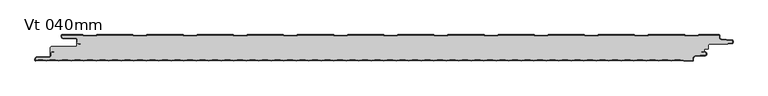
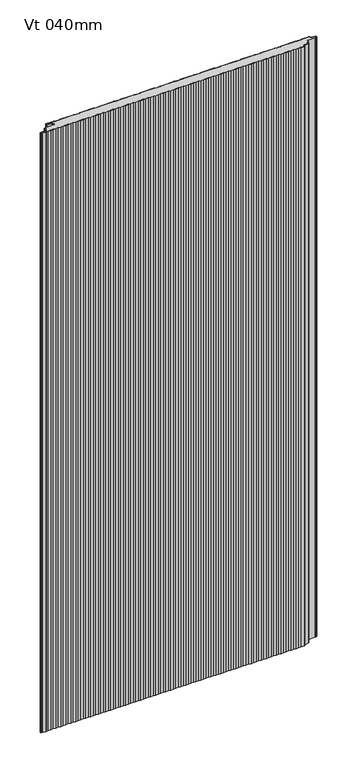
"""IFC4 building model written with IfcOpenShell, lengths in millimetres: plate geometry, KIP-MEX-FW-R19-CP-Vt-MR : Vt 040mm."""

from ifc_helpers import new_model, si_unit, point, frame_2d, origin, origin_with_axes, place, context, project, spatial, polyline, circle_curve, trimmed, segment, composite_curve, outline, extrude, source, transform, mapped, element, save


def vt_040mm_0b9b046a(model_context):
    return source(origin(), model_context, "Body", "SweptSolid", [
        extrude(outline(composite_curve([segment(trimmed(circle_curve(frame_2d((500.9783297, -16.1654441)), 2.0000146), [point((500.9783297, -14.1654295))], [point((498.9783151, -16.1654441))], True, "CARTESIAN"), True, "CONTINUOUS"), segment(polyline([(498.9783151, -16.1654441), (498.9783151, -20.7497098)]), True, "CONTINUOUS"), segment(trimmed(circle_curve(frame_2d((497.9783141, -20.7497098)), 1.0000009), [point((498.9783151, -20.7497098))], [point((497.9783141, -21.7497107))], False, "CARTESIAN"), True, "CONTINUOUS"), segment(polyline([(497.9783141, -21.7497107), (492.7282913, -21.7497107), (492.7282913, -26.1897871), (488.6576517, -25.8336543), (488.5704965, -26.8298491), (494.3590279, -27.336277)]), True, "CONTINUOUS"), segment(trimmed(circle_curve(frame_2d((494.228289, -28.8306389)), 1.50007), [point((494.3590279, -27.336277))], [point((495.4949849, -28.0270895))], False, "CARTESIAN"), True, "CONTINUOUS"), segment(polyline([(495.4949849, -28.0270895), (495.4949849, -30.4094142)]), True, "CONTINUOUS"), segment(trimmed(circle_curve(frame_2d((494.228289, -29.6058649)), 1.50007), [point((495.4949849, -30.4094142))], [point((494.3590282, -31.1002267))], False, "CARTESIAN"), True, "CONTINUOUS"), segment(polyline([(494.3590282, -31.1002267), (478.2363019, -32.5107775)]), True, "CONTINUOUS"), segment(trimmed(circle_curve(frame_2d((478.4977739, -35.4994271)), 3.0000656), [point((478.2363019, -32.5107775))], [point((475.4977083, -35.4994271))], True, "CARTESIAN"), True, "CONTINUOUS"), segment(polyline([(475.4977083, -35.4994271), (475.4977083, -38.9993686), (461.62819, -38.9993686), (452.1300477, -37.9942848), (442.6032335, -38.9944753), (433.1527113, -37.9949284), (423.6258971, -38.9951188), (414.1753749, -37.9955719), (404.6485607, -38.9957624), (395.1980385, -37.9962154), (385.6712243, -38.9964059), (376.2207021, -37.996859), (366.6938879, -38.9970495), (357.2433657, -37.9975025), (347.7165515, -38.997693), (338.2660292, -37.9981461), (328.7392151, -38.9983365), (319.2886928, -37.9987896), (309.7618786, -38.9989801), (300.3113564, -37.9994332), (290.7845422, -38.9996236), (281.33402, -38.0000767), (271.8072058, -39.0002672), (262.3566836, -38.0007203), (252.8298694, -39.0009107), (243.3793472, -38.0013638), (233.852533, -39.0015543), (224.4020108, -38.0020073), (214.8751966, -39.0021978), (205.4246744, -38.0026509), (195.8978602, -39.0028413), (186.447338, -38.0032944), (176.9205238, -39.0034849), (167.4700016, -38.003938), (157.9431874, -39.0041284), (148.4926652, -38.0045815), (138.965851, -39.004772), (129.5153287, -38.0052251), (119.9885145, -39.0054155), (110.5379923, -38.0058686), (101.0111781, -39.0060591), (91.5606559, -38.0065121), (82.0338417, -39.0067026), (72.5833195, -38.0071557), (63.0565053, -39.0073462), (53.6059831, -38.0077992), (44.0791689, -39.0079897), (34.6286467, -38.0084428), (25.1018325, -39.0086332), (15.6513103, -38.0090863), (6.1244961, -39.0092768), (-3.3260261, -38.0097299), (-12.8528403, -39.0099203), (-22.3033625, -38.0103734), (-31.8301767, -39.0105639), (-41.2806989, -38.0110169), (-50.8075131, -39.0112074), (-60.2580354, -38.0116605), (-69.7848495, -39.011851), (-79.2353718, -38.012304), (-88.762186, -39.0124945), (-98.2127082, -38.0129476), (-107.7395224, -39.013138), (-117.1900446, -38.0135911), (-126.7168588, -39.0137816), (-136.167381, -38.0142347), (-145.6941952, -39.0144251), (-155.1447174, -38.0148782), (-164.6715316, -39.0150687), (-174.1220538, -38.0155218), (-183.648868, -39.0157122), (-193.0993902, -38.0161653), (-202.6262044, -39.0163558), (-212.0767266, -38.0168088), (-221.6035408, -39.0169993), (-231.054063, -38.0174524), (-240.5808772, -39.0176429), (-250.0313995, -38.0180959), (-259.5582136, -39.0182864), (-269.0087359, -38.0187395), (-278.5355501, -39.0189299), (-287.9860723, -38.019383), (-297.5128865, -39.0195735), (-306.9634087, -38.0200266), (-316.4902229, -39.020217), (-325.9407451, -38.0206701), (-335.4675593, -39.0208606), (-344.9180815, -38.0213136), (-354.4448957, -39.0215041), (-363.8954179, -38.0219572), (-373.4222321, -39.0221477), (-382.8727543, -38.0226007), (-392.3995685, -39.0227912), (-401.8500907, -38.0232443), (-411.3769049, -39.0234347), (-420.8274271, -38.0238878), (-430.3542413, -39.0240783), (-439.8047635, -38.0245314), (-449.3315777, -39.0247218), (-458.7821, -38.0251749), (-468.3089142, -39.0253654), (-477.7594364, -38.0258185), (-487.2862506, -39.0260089), (-496.7367728, -38.026462), (-506.263587, -39.0266525), (-515.7141092, -38.0271055), (-522.5021472, -38.9994115), (-522.5021472, -37.4995355)]), True, "CONTINUOUS"), segment(trimmed(circle_curve(frame_2d((-520.0023509, -37.4995355)), 2.4997964), [point((-522.5021472, -37.4995355))], [point((-520.0023509, -34.9997391))], False, "CARTESIAN"), True, "CONTINUOUS"), segment(polyline([(-520.0023509, -34.9997391), (-502.0013909, -34.9997391)]), True, "CONTINUOUS"), segment(trimmed(circle_curve(frame_2d((-502.0013909, -31.9990175)), 3.0007216), [point((-502.0013909, -34.9997391))], [point((-499.0006702, -32.0012622))], True, "CARTESIAN"), True, "CONTINUOUS"), segment(polyline([(-499.0006702, -32.0012622), (-499.0006702, -28.4048939)]), True, "CONTINUOUS"), segment(trimmed(circle_curve(frame_2d((-497.5003, -28.4048939)), 1.5003702), [point((-499.0006702, -28.4048939))], [point((-497.7599015, -26.9271532))], False, "CARTESIAN"), True, "CONTINUOUS"), segment(polyline([(-497.7599015, -26.9271532), (-494.2177275, -26.3048833), (-494.3907152, -25.3201776), (-497.9325337, -25.942385)]), True, "CONTINUOUS"), segment(trimmed(circle_curve(frame_2d((-497.4999652, -28.4047134)), 2.5000354), [point((-497.9325337, -25.942385))], [point((-500.0000002, -28.4032291))], True, "CARTESIAN"), True, "CONTINUOUS"), segment(polyline([(-500.0000002, -28.4032291), (-500.0000002, -20.2497149)]), True, "CONTINUOUS"), segment(trimmed(circle_curve(frame_2d((-497.9999885, -20.2497149)), 2.0000117), [point((-500.0000002, -20.2497149))], [point((-497.9999885, -18.2497033))], False, "CARTESIAN"), True, "CONTINUOUS"), segment(polyline([(-497.9999885, -18.2497033), (-461.9999862, -18.2497033)]), True, "CONTINUOUS"), segment(trimmed(circle_curve(frame_2d((-461.9999862, -16.2497112)), 1.9999921), [point((-461.9999862, -18.2497033))], [point((-459.9999941, -16.2497112))], True, "CARTESIAN"), True, "CONTINUOUS"), segment(polyline([(-459.9999941, -16.2497112), (-459.9999941, -11.5958548)]), True, "CONTINUOUS"), segment(trimmed(circle_curve(frame_2d((-457.4999722, -11.5943842)), 2.5000223), [point((-459.9999941, -11.5958548))], [point((-457.9325372, -14.0567))], True, "CARTESIAN"), True, "CONTINUOUS"), segment(polyline([(-457.9325372, -14.0567), (-454.3907164, -14.6789059), (-454.2177293, -13.6942009), (-457.7599069, -13.0719322)]), True, "CONTINUOUS"), segment(trimmed(circle_curve(frame_2d((-457.5003083, -11.5942031)), 1.5003583), [point((-457.7599069, -13.0719322))], [point((-459.0006666, -11.5942031))], False, "CARTESIAN"), True, "CONTINUOUS"), segment(polyline([(-459.0006666, -11.5942031), (-459.0006666, -7.9979742)]), True, "CONTINUOUS"), segment(trimmed(circle_curve(frame_2d((-462.0013897, -8.000067)), 3.0007238), [point((-459.0006666, -7.9979742))], [point((-462.0013897, -4.9993432))], True, "CARTESIAN"), True, "CONTINUOUS"), segment(polyline([(-462.0013897, -4.9993432), (-480.0023525, -4.9993432)]), True, "CONTINUOUS"), segment(trimmed(circle_curve(frame_2d((-480.0023525, -2.4995477)), 2.4997955), [point((-480.0023525, -4.9993432))], [point((-482.502148, -2.4995477))], False, "CARTESIAN"), True, "CONTINUOUS"), segment(polyline([(-482.502148, -2.4995477), (-482.502148, -0.9997153), (-451.198772, -0.9997153), (-450.1136256, -2.2014096), (-430.1816473, -2.2014096), (-429.0936975, -1.0003366), (-375.0486907, -1.0003366), (-373.9621665, -2.1998358), (-354.0301881, -2.1998358), (-352.9436639, -1.0003366), (-298.895806, -1.0003366), (-297.8092817, -2.1998358), (-277.8773034, -2.1998358), (-276.7907791, -1.0003366), (-222.7429212, -1.0003366), (-221.6563969, -2.1998358), (-201.7244186, -2.1998358), (-200.6378943, -1.0003366), (-146.5900365, -1.0003366), (-145.5035122, -2.1998358), (-125.5715339, -2.1998358), (-124.4864353, -1.0003366), (-70.4371517, -1.0003366), (-69.3506274, -2.1998358), (-49.4186491, -2.1998358), (-48.3335506, -1.0003366), (5.7157331, -1.0003366), (6.8022573, -2.1998358), (26.7342357, -2.1998358), (27.8207599, -1.0003366), (81.8686178, -1.0003366), (82.9551421, -2.1998358), (102.8871204, -2.1998358), (103.9722189, -1.0003366), (158.0215026, -1.0003366), (159.1080269, -2.1998358), (179.0400052, -2.1998358), (180.1265295, -1.0003366), (234.1743873, -1.0003366), (235.2609116, -2.1998358), (255.1928899, -2.1998358), (256.2779885, -1.0003366), (310.3272721, -1.0003366), (311.4137964, -2.1998358), (331.3457747, -2.1998358), (332.432299, -1.0003366), (386.4801569, -1.0003366), (387.5666811, -2.1998358), (407.4986595, -2.1998358), (408.5851837, -1.0003366), (462.6330416, -1.0003366), (463.7195659, -2.1998358), (483.6515442, -2.1998358), (484.7366427, -0.9997052), (515.4976697, -0.9997052), (515.4976697, -4.4996623)]), True, "CONTINUOUS"), segment(trimmed(circle_curve(frame_2d((518.4977212, -4.4996623)), 3.0000515), [point((515.4976697, -4.4996623))], [point((518.236249, -7.4882976))], True, "CARTESIAN"), True, "CONTINUOUS"), segment(polyline([(518.236249, -7.4882976), (534.3589903, -8.8988572)]), True, "CONTINUOUS"), segment(trimmed(circle_curve(frame_2d((534.2282504, -10.393219)), 1.50007), [point((534.3589903, -8.8988572))], [point((535.60777, -9.8040368))], False, "CARTESIAN"), True, "CONTINUOUS"), segment(polyline([(535.60777, -9.8040368), (535.60777, -11.7576271)]), True, "CONTINUOUS"), segment(trimmed(circle_curve(frame_2d((534.2282504, -11.168445)), 1.50007), [point((535.60777, -11.7576271))], [point((534.3589893, -12.6628068))], False, "CARTESIAN"), True, "CONTINUOUS"), segment(polyline([(534.3589893, -12.6628068), (528.5704579, -13.1692348), (528.6576132, -14.1654295), (500.9783297, -14.1654295)]), True, "CONTINUOUS")], self_intersect=False)), origin_with_axes(), (0.0, 0.0, 1.0), 2400.0),
        extrude(outline(composite_curve([segment(trimmed(circle_curve(frame_2d((534.2282504, -10.3913085)), 2.50007), [point((534.4461462, -7.9007521))], [point((536.6327024, -9.7065014))], False, "CARTESIAN"), True, "CONTINUOUS"), segment(polyline([(536.6327024, -9.7065014), (536.6327024, -11.8513417)]), True, "CONTINUOUS"), segment(trimmed(circle_curve(frame_2d((534.2282504, -11.1665345)), 2.50007), [point((536.6327024, -11.8513417))], [point((534.4461446, -13.6570911))], False, "CARTESIAN"), True, "CONTINUOUS"), segment(polyline([(534.4461446, -13.6570911), (528.6576132, -14.1635191), (528.5704579, -13.1673244), (534.3589893, -12.6608964)]), True, "CONTINUOUS"), segment(trimmed(circle_curve(frame_2d((534.2282504, -11.1665345)), 1.50007), [point((534.3589893, -12.6608964))], [point((535.60777, -11.7557167))], True, "CARTESIAN"), True, "CONTINUOUS"), segment(polyline([(535.60777, -11.7557167), (535.60777, -9.8021264)]), True, "CONTINUOUS"), segment(trimmed(circle_curve(frame_2d((534.2282504, -10.3913085)), 1.50007), [point((535.60777, -9.8021264))], [point((534.3589903, -8.8969468))], True, "CARTESIAN"), True, "CONTINUOUS"), segment(polyline([(534.3589903, -8.8969468), (518.236249, -7.4863872)]), True, "CONTINUOUS"), segment(trimmed(circle_curve(frame_2d((518.4977212, -4.4977518)), 3.0000515), [point((518.236249, -7.4863872))], [point((515.4976697, -4.4977518))], False, "CARTESIAN"), True, "CONTINUOUS"), segment(polyline([(515.4976697, -4.4977518), (515.4976697, -0.9977948), (484.7366427, -0.9977948), (483.6515442, -2.1979254), (463.7195659, -2.1979254), (462.6330416, -0.9984262), (408.5851837, -0.9984262), (407.4986595, -2.1979254), (387.5666811, -2.1979254), (386.4801569, -0.9984262), (332.432299, -0.9984262), (331.3457747, -2.1979254), (311.4137964, -2.1979254), (310.3272721, -0.9984262), (256.2779885, -0.9984262), (255.1928899, -2.1979254), (235.2609116, -2.1979254), (234.1743873, -0.9984262), (180.1265295, -0.9984262), (179.0400052, -2.1979254), (159.1080269, -2.1979254), (158.0215026, -0.9984262), (103.9722189, -0.9984262), (102.8871204, -2.1979254), (82.9551421, -2.1979254), (81.8686178, -0.9984262), (27.8207599, -0.9984262), (26.7342357, -2.1979254), (6.8022573, -2.1979254), (5.7157331, -0.9984262), (-48.3335506, -0.9984262), (-49.4186491, -2.1979254), (-69.3506274, -2.1979254), (-70.4371517, -0.9984262), (-124.4864353, -0.9984262), (-125.5715339, -2.1979254), (-145.5035122, -2.1979254), (-146.5900365, -0.9984262), (-200.6378943, -0.9984262), (-201.7244186, -2.1979254), (-221.6563969, -2.1979254), (-222.7429212, -0.9984262), (-276.7907791, -0.9984262), (-277.8773034, -2.1979254), (-297.8092817, -2.1979254), (-298.895806, -0.9984262), (-352.9436639, -0.9984262), (-354.0301881, -2.1979254), (-373.9621665, -2.1979254), (-375.0486907, -0.9984262), (-429.0936975, -0.9984262), (-430.1816473, -2.1994992), (-450.1136256, -2.1994992), (-451.198772, -0.9978049), (-482.5021495, -0.9978049), (-482.5021495, -2.4976391)]), True, "CONTINUOUS"), segment(trimmed(circle_curve(frame_2d((-480.0023517, -2.4976391)), 2.4997977), [point((-482.5021495, -2.4976391))], [point((-480.0023517, -4.9974368))], True, "CARTESIAN"), True, "CONTINUOUS"), segment(polyline([(-480.0023517, -4.9974368), (-462.0013975, -4.9974368)]), True, "CONTINUOUS"), segment(trimmed(circle_curve(frame_2d((-462.0013975, -7.9981527)), 3.0007159), [point((-462.0013975, -4.9974368))], [point((-459.0006824, -7.9960599))], False, "CARTESIAN"), True, "CONTINUOUS"), segment(polyline([(-459.0006824, -7.9960599), (-459.0006824, -11.5923191)]), True, "CONTINUOUS"), segment(trimmed(circle_curve(frame_2d((-457.5002995, -11.5923191)), 1.5003829), [point((-459.0006824, -11.5923191))], [point((-457.7598389, -13.0700837))], True, "CARTESIAN"), True, "CONTINUOUS"), segment(polyline([(-457.7598389, -13.0700837), (-454.2177322, -13.692183), (-454.3907145, -14.6771087), (-457.9328225, -14.0550092)]), True, "CONTINUOUS"), segment(trimmed(circle_curve(frame_2d((-457.5003007, -11.5923184)), 2.5003842), [point((-457.9328225, -14.0550092))], [point((-460.0006844, -11.5937892))], False, "CARTESIAN"), True, "CONTINUOUS"), segment(polyline([(-460.0006844, -11.5937892), (-460.0006844, -7.9966543)]), True, "CONTINUOUS"), segment(trimmed(circle_curve(frame_2d((-462.0013951, -7.9981583)), 2.0007112), [point((-460.0006844, -7.9966543))], [point((-462.0013951, -5.9974471))], True, "CARTESIAN"), True, "CONTINUOUS"), segment(polyline([(-462.0013951, -5.9974471), (-480.0023719, -5.9974471)]), True, "CONTINUOUS"), segment(trimmed(circle_curve(frame_2d((-480.0023719, -2.4976291)), 3.499818), [point((-480.0023719, -5.9974471))], [point((-483.5021899, -2.4976291))], False, "CARTESIAN"), True, "CONTINUOUS"), segment(polyline([(-483.5021899, -2.4976291), (-483.5021899, -1.4977832)]), True, "CONTINUOUS"), segment(trimmed(circle_curve(frame_2d((-482.0022451, -1.4977832)), 1.4999449), [point((-483.5021899, -1.4977832))], [point((-481.8959821, -0.0016072))], False, "CARTESIAN"), True, "CONTINUOUS"), segment(polyline([(-481.8959821, -0.0016072), (-450.75528, -0.0016072), (-449.6701813, -1.1994992), (-430.6250917, -1.1994992), (-429.5385674, 0.0), (-374.6038208, 0.0), (-373.5187221, -1.1979254), (-354.4736325, -1.1979254), (-353.3871082, 0.0), (-298.450936, 0.0), (-297.3658373, -1.1979254), (-278.3207477, -1.1979254), (-277.2342235, 0.0), (-222.2980513, 0.0), (-221.2129526, -1.1979254), (-202.167863, -1.1979254), (-201.0813387, 0.0), (-146.1451665, 0.0), (-145.0600678, -1.1979254), (-126.0149782, -1.1979254), (-124.9284539, 0.0), (-69.9922817, 0.0), (-68.907183, -1.1979254), (-49.8620935, -1.1979254), (-48.7755692, 0.0), (6.160603, 0.0), (7.2457017, -1.1979254), (26.2907913, -1.1979254), (27.3773156, 0.0), (82.3134878, 0.0), (83.3985865, -1.1979254), (102.4436761, -1.1979254), (103.5302003, 0.0), (158.4663725, 0.0), (159.5514712, -1.1979254), (178.5965608, -1.1979254), (179.6830851, 0.0), (234.6192573, 0.0), (235.704356, -1.1979254), (254.7494456, -1.1979254), (255.8359699, 0.0), (310.7721421, 0.0), (311.8572408, -1.1979254), (330.9023303, -1.1979254), (331.9888546, 0.0), (386.9250268, 0.0), (388.0101255, -1.1979254), (407.0552151, -1.1979254), (408.1417394, 0.0), (463.0779116, 0.0), (464.1630103, -1.1979254), (483.2080999, -1.1979254), (484.2946241, 0.0021951), (514.9977637, 0.0021951)]), True, "CONTINUOUS"), segment(trimmed(circle_curve(frame_2d((514.9977637, -1.4977109)), 1.499906), [point((514.9977637, 0.0021951))], [point((516.4976697, -1.4977109))], False, "CARTESIAN"), True, "CONTINUOUS"), segment(polyline([(516.4976697, -1.4977109), (516.4976697, -4.4977518)]), True, "CONTINUOUS"), segment(trimmed(circle_curve(frame_2d((518.4977212, -4.4977518)), 2.0000515), [point((516.4976697, -4.4977518))], [point((518.3234049, -6.4901925))], True, "CARTESIAN"), True, "CONTINUOUS"), segment(polyline([(518.3234049, -6.4901925), (534.4461462, -7.9007521)]), True, "CONTINUOUS")], self_intersect=False)), origin_with_axes(), (0.0, 0.0, 1.0), 2400.0),
        extrude(outline(composite_curve([segment(trimmed(circle_curve(frame_2d((494.228289, -28.8312703)), 2.50007), [point((494.4461832, -26.3407137))], [point((496.6282243, -28.1307989))], False, "CARTESIAN"), True, "CONTINUOUS"), segment(polyline([(496.6282243, -28.1307989), (496.6282243, -30.3069678)]), True, "CONTINUOUS"), segment(trimmed(circle_curve(frame_2d((494.228289, -29.6064963)), 2.50007), [point((496.6282243, -30.3069678))], [point((494.4461837, -32.0970529))], False, "CARTESIAN"), True, "CONTINUOUS"), segment(polyline([(494.4461837, -32.0970529), (478.3234573, -33.5076037)]), True, "CONTINUOUS"), segment(trimmed(circle_curve(frame_2d((478.4977739, -35.5000585)), 2.0000656), [point((478.3234573, -33.5076037))], [point((476.4977083, -35.5000585))], True, "CARTESIAN"), True, "CONTINUOUS"), segment(polyline([(476.4977083, -35.5000585), (476.4977083, -38.500094)]), True, "CONTINUOUS"), segment(trimmed(circle_curve(frame_2d((474.9978023, -38.500094)), 1.499906), [point((476.4977083, -38.500094))], [point((474.9978023, -40.0))], False, "CARTESIAN"), True, "CONTINUOUS"), segment(polyline([(474.9978023, -40.0), (461.5801824, -40.0), (452.1296601, -39.000453), (442.6028459, -40.0006434), (433.1523237, -39.0010965), (423.6255095, -40.001287), (414.1749873, -39.00174), (404.6481731, -40.0019305), (395.1976509, -39.0023836), (385.6708367, -40.0025741), (376.2203145, -39.0030271), (366.6935003, -40.0032176), (357.2429781, -39.0036707), (347.7161639, -40.0038611), (338.2656417, -39.0043142), (328.7388275, -40.0045047), (319.2883053, -39.0049578), (309.7614911, -40.0051482), (300.3109689, -39.0056013), (290.7841547, -40.0057918), (281.3336324, -39.0062449), (271.8068183, -40.0064353), (262.356296, -39.0068884), (252.8294818, -40.0070789), (243.3789596, -39.0075319), (233.8521454, -40.0077224), (224.4016232, -39.0081755), (214.874809, -40.008366), (205.4242868, -39.008819), (195.8974726, -40.0090095), (186.4469504, -39.0094626), (176.9201362, -40.009653), (167.469614, -39.0101061), (157.9427998, -40.0102966), (148.4922776, -39.0107497), (138.9654634, -40.0109401), (129.5149412, -39.0113932), (119.988127, -40.0115837), (110.5376048, -39.0120367), (101.0107906, -40.0122272), (91.5602683, -39.0126803), (82.0334542, -40.0128708), (72.5829319, -39.0133238), (63.0561177, -40.0135143), (53.6055955, -39.0139674), (44.0787813, -40.0141578), (34.6282591, -39.0146109), (25.1014449, -40.0148014), (15.6509227, -39.0152545), (6.1241085, -40.0154449), (-3.3264137, -39.015898), (-12.8532279, -40.0160885), (-22.3037501, -39.0165416), (-31.8305643, -40.016732), (-41.2810865, -39.0171851), (-50.8079007, -40.0173756), (-60.2584229, -39.0178286), (-69.7852371, -40.0180191), (-79.2357593, -39.0184722), (-88.7625735, -40.0186627), (-98.2130957, -39.0191157), (-107.7399099, -40.0193062), (-117.1904322, -39.0197593), (-126.7172464, -40.0199497), (-136.1677686, -39.0204028), (-145.6945828, -40.0205933), (-155.145105, -39.0210464), (-164.6719192, -40.0212368), (-174.1224414, -39.0216899), (-183.6492556, -40.0218804), (-193.0997778, -39.0223334), (-202.626592, -40.0225239), (-212.0771142, -39.022977), (-221.6039284, -40.0231675), (-231.0544506, -39.0236205), (-240.5812648, -40.023811), (-250.031787, -39.0242641), (-259.5586012, -40.0244545), (-269.0091234, -39.0249076), (-278.5359376, -40.0250981), (-287.9864598, -39.0255512), (-297.513274, -40.0257416), (-306.9637963, -39.0261947), (-316.4906104, -40.0263852), (-325.9411327, -39.0268383), (-335.4679469, -40.0270287), (-344.9184691, -39.0274818), (-354.4452833, -40.0276723), (-363.8958055, -39.0281253), (-373.4226197, -40.0283158), (-382.8731419, -39.0287689), (-392.3999561, -40.0289593), (-401.8504783, -39.0294124), (-411.3772925, -40.0296029), (-420.8278147, -39.030056), (-430.3546289, -40.0302464), (-439.8051511, -39.0306995), (-449.3319653, -40.03089), (-458.7824875, -39.0313431), (-468.3093017, -40.0315335), (-477.7598239, -39.0319866), (-487.2866381, -40.0321771), (-496.7371604, -39.0326301), (-506.2639745, -40.0328206), (-515.7144968, -39.0332737), (-522.0022446, -39.9999669)]), True, "CONTINUOUS"), segment(trimmed(circle_curve(frame_2d((-522.0022446, -38.5000215)), 1.4999455), [point((-522.0022446, -39.9999669))], [point((-523.50219, -38.5000215))], False, "CARTESIAN"), True, "CONTINUOUS"), segment(polyline([(-523.50219, -38.5000215), (-523.50219, -37.5001754)]), True, "CONTINUOUS"), segment(trimmed(circle_curve(frame_2d((-520.0023708, -37.5001754)), 3.4998192), [point((-523.50219, -37.5001754))], [point((-520.0023708, -34.0003562))], False, "CARTESIAN"), True, "CONTINUOUS"), segment(polyline([(-520.0023708, -34.0003562), (-502.0013961, -34.0003562)]), True, "CONTINUOUS"), segment(trimmed(circle_curve(frame_2d((-502.0013961, -31.9996477)), 2.0007086), [point((-502.0013961, -34.0003562))], [point((-500.0006881, -32.0011442))], True, "CARTESIAN"), True, "CONTINUOUS"), segment(polyline([(-500.0006881, -32.0011442), (-500.0006881, -28.4040152)]), True, "CONTINUOUS"), segment(trimmed(circle_curve(frame_2d((-497.5002926, -28.4054997)), 2.500396), [point((-500.0006881, -28.4040152))], [point((-497.932818, -25.9427976))], False, "CARTESIAN"), True, "CONTINUOUS"), segment(polyline([(-497.932818, -25.9427976), (-494.3907133, -25.3206961), (-494.2177304, -26.3056218), (-497.7598337, -26.927723)]), True, "CONTINUOUS"), segment(trimmed(circle_curve(frame_2d((-497.5002913, -28.405499)), 1.5003947), [point((-497.7598337, -26.927723))], [point((-499.0006859, -28.405499))], True, "CARTESIAN"), True, "CONTINUOUS"), segment(polyline([(-499.0006859, -28.405499), (-499.0006859, -32.0018975)]), True, "CONTINUOUS"), segment(trimmed(circle_curve(frame_2d((-502.0013988, -31.9996528)), 3.0007137), [point((-499.0006859, -32.0018975))], [point((-502.0013988, -35.0003665))], False, "CARTESIAN"), True, "CONTINUOUS"), segment(polyline([(-502.0013988, -35.0003665), (-520.0023501, -35.0003665)]), True, "CONTINUOUS"), segment(trimmed(circle_curve(frame_2d((-520.0023501, -37.5001651)), 2.4997986), [point((-520.0023501, -35.0003665))], [point((-522.5021487, -37.5001651))], True, "CARTESIAN"), True, "CONTINUOUS"), segment(polyline([(-522.5021487, -37.5001651), (-522.5021487, -39.000043), (-515.7141092, -38.027737), (-506.263587, -39.0272839), (-496.7367728, -38.0270934), (-487.2862506, -39.0266404), (-477.7594364, -38.0264499), (-468.3089142, -39.0259968), (-458.7821, -38.0258063), (-449.3315777, -39.0253533), (-439.8047635, -38.0251628), (-430.3542413, -39.0247097), (-420.8274271, -38.0245193), (-411.3769049, -39.0240662), (-401.8500907, -38.0238757), (-392.3995685, -39.0234226), (-382.8727543, -38.0232322), (-373.4222321, -39.0227791), (-363.8954179, -38.0225886), (-354.4448957, -39.0221356), (-344.9180815, -38.0219451), (-335.4675593, -39.021492), (-325.9407451, -38.0213015), (-316.4902229, -39.0208485), (-306.9634087, -38.020658), (-297.5128865, -39.0202049), (-287.9860723, -38.0200145), (-278.5355501, -39.0195614), (-269.0087359, -38.0193709), (-259.5582136, -39.0189178), (-250.0313995, -38.0187274), (-240.5808772, -39.0182743), (-231.054063, -38.0180838), (-221.6035408, -39.0176307), (-212.0767266, -38.0174403), (-202.6262044, -39.0169872), (-193.0993902, -38.0167967), (-183.648868, -39.0163437), (-174.1220538, -38.0161532), (-164.6715316, -39.0157001), (-155.1447174, -38.0155096), (-145.6941952, -39.0150566), (-136.167381, -38.0148661), (-126.7168588, -39.014413), (-117.1900446, -38.0142226), (-107.7395224, -39.0137695), (-98.2127082, -38.013579), (-88.762186, -39.0131259), (-79.2353718, -38.0129355), (-69.7848495, -39.0124824), (-60.2580354, -38.0122919), (-50.8075131, -39.0118389), (-41.2806989, -38.0116484), (-31.8301767, -39.0111953), (-22.3033625, -38.0110048), (-12.8528403, -39.0105518), (-3.3260261, -38.0103613), (6.1244961, -39.0099082), (15.6513103, -38.0097178), (25.1018325, -39.0092647), (34.6286467, -38.0090742), (44.0791689, -39.0086211), (53.6059831, -38.0084307), (63.0565053, -39.0079776), (72.5833195, -38.0077871), (82.0338417, -39.007334), (91.5606559, -38.0071436), (101.0111781, -39.0066905), (110.5379923, -38.0065), (119.9885145, -39.006047), (129.5153287, -38.0058565), (138.965851, -39.0054034), (148.4926652, -38.005213), (157.9431874, -39.0047599), (167.4700016, -38.0045694), (176.9205238, -39.0041163), (186.447338, -38.0039259), (195.8978602, -39.0034728), (205.4246744, -38.0032823), (214.8751966, -39.0028292), (224.4020108, -38.0026388), (233.852533, -39.0021857), (243.3793472, -38.0019952), (252.8298694, -39.0015422), (262.3566836, -38.0013517), (271.8072058, -39.0008986), (281.33402, -38.0007081), (290.7845422, -39.0002551), (300.3113564, -38.0000646), (309.7618786, -38.9996115), (319.2886928, -37.9994211), (328.7392151, -38.998968), (338.2660292, -37.9987775), (347.7165515, -38.9983244), (357.2433657, -37.998134), (366.6938879, -38.9976809), (376.2207021, -37.9974904), (385.6712243, -38.9970374), (395.1980385, -37.9968469), (404.6485607, -38.9963938), (414.1753749, -37.9962033), (423.6258971, -38.9957503), (433.1527113, -37.9955598), (442.6032335, -38.9951067), (452.1300477, -37.9949163), (461.62819, -39.0), (475.4977083, -39.0), (475.4977083, -35.5000585)]), True, "CONTINUOUS"), segment(trimmed(circle_curve(frame_2d((478.4977739, -35.5000585)), 3.0000656), [point((475.4977083, -35.5000585))], [point((478.2363019, -32.511409))], False, "CARTESIAN"), True, "CONTINUOUS"), segment(polyline([(478.2363019, -32.511409), (494.3590282, -31.1008582)]), True, "CONTINUOUS"), segment(trimmed(circle_curve(frame_2d((494.228289, -29.6064963)), 1.50007), [point((494.3590282, -31.1008582))], [point((495.4949849, -30.4100457))], True, "CARTESIAN"), True, "CONTINUOUS"), segment(polyline([(495.4949849, -30.4100457), (495.4949849, -28.027721)]), True, "CONTINUOUS"), segment(trimmed(circle_curve(frame_2d((494.228289, -28.8312703)), 1.50007), [point((495.4949849, -28.027721))], [point((494.3590279, -27.3369085))], True, "CARTESIAN"), True, "CONTINUOUS"), segment(polyline([(494.3590279, -27.3369085), (488.5704965, -26.8304805), (488.6576517, -25.8342858), (494.4461832, -26.3407137)]), True, "CONTINUOUS")], self_intersect=False)), origin_with_axes(), (0.0, 0.0, 1.0), 2400.0),
    ])


if __name__ == "__main__":
    model = new_model("IFC4")
    model_context = context("Model", 3, world=origin())
    ifc_project = project(units=[si_unit("LENGTHUNIT", "METRE", prefix="MILLI")], contexts=[model_context])
    site = spatial("IfcSite", under=ifc_project)
    building = spatial("IfcBuilding", under=site)
    placement = place(None, origin())
    vt_040mm_shape = vt_040mm_0b9b046a(model_context)
    element("IfcPlate", 1, ObjectType="KIP-MEX-FW-R19-CP-Vt-MR : Vt 040mm", at=placement, inside=building, context=model_context, shape_type="MappedRepresentation", body=[
        mapped(vt_040mm_shape, transform((0.0, 0.0, 0.0), x_axis=(1.0, 0.0, 0.0), y_axis=(0.0, 1.0, 0.0), z_axis=(0.0, 0.0, 1.0))),
    ])
    save(model, "model.ifc")
